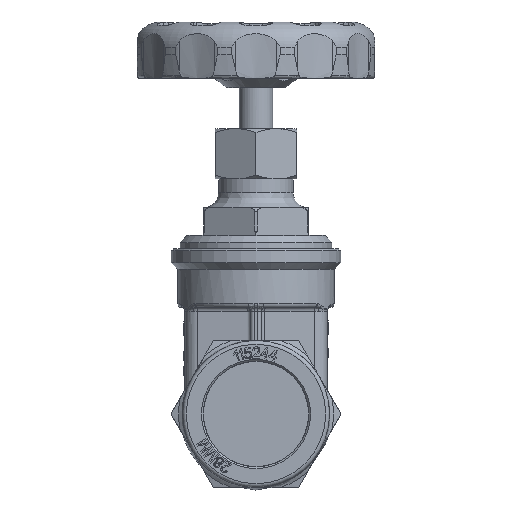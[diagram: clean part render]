
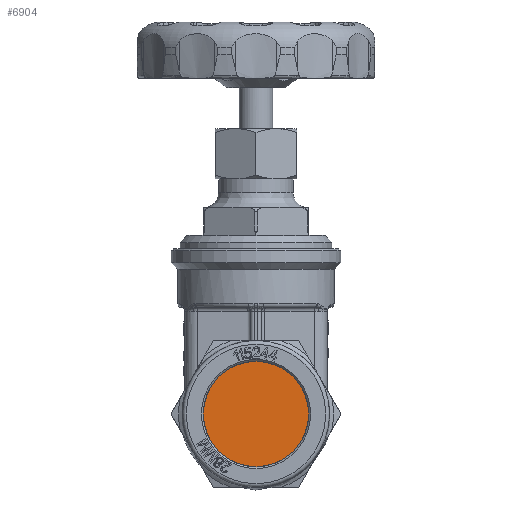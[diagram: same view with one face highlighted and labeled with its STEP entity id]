
A CAD part, left-side view. The second image highlights one B-rep face of the part: STEP entity #6904.
In plain terms, the highlighted planar face has unit normal (-1, 0, 0).
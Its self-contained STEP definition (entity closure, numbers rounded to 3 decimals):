
#6888=CARTESIAN_POINT('',(13.336,-7.056,0.0));
#6889=DIRECTION('',(-1.0,0.0,0.0));
#6890=DIRECTION('',(0.0,0.0,1.0));
#6891=AXIS2_PLACEMENT_3D('',#6888,#6889,#6890);
#6892=PLANE('',#6891);
#6893=CARTESIAN_POINT('',(13.336,-14.113,0.0));
#6894=VERTEX_POINT('',#6893);
#6895=CARTESIAN_POINT('',(13.336,0.0,0.0));
#6896=DIRECTION('',(-1.0,0.0,0.0));
#6897=DIRECTION('',(0.0,-1.0,0.0));
#6898=AXIS2_PLACEMENT_3D('',#6895,#6896,#6897);
#6899=CIRCLE('',#6898,14.113);
#6900=EDGE_CURVE('',#6894,#6894,#6899,.T.);
#6901=ORIENTED_EDGE('',*,*,#6900,.T.);
#6902=EDGE_LOOP('',(#6901));
#6903=FACE_OUTER_BOUND('',#6902,.T.);
#6904=ADVANCED_FACE('',(#6903),#6892,.T.);
